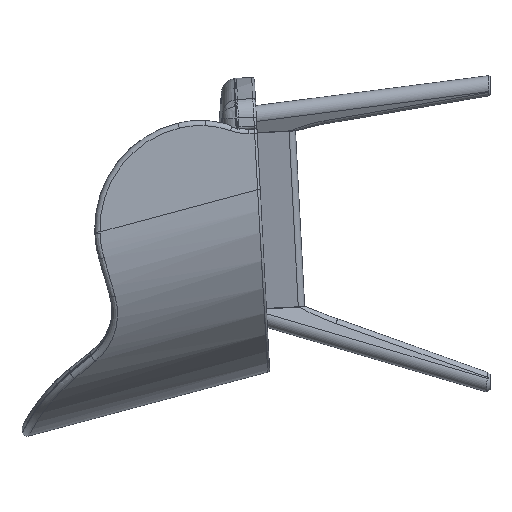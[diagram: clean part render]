
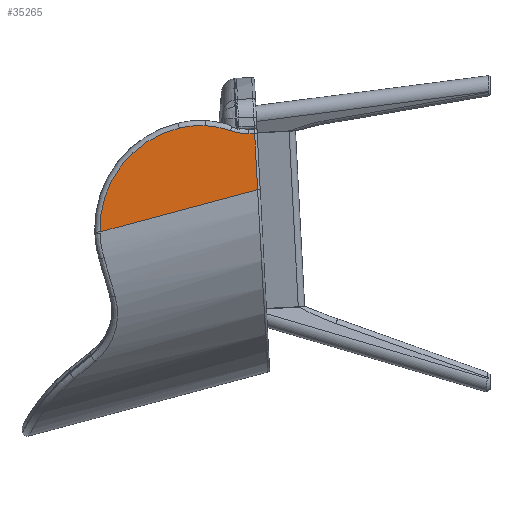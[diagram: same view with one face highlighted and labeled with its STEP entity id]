
A CAD part, left-side view. The second image highlights one B-rep face of the part: STEP entity #35265.
In plain terms, the highlighted planar face has unit normal (-1, 0, 0).
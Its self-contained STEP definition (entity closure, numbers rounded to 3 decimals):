
#447 = CARTESIAN_POINT ( 'NONE',  ( -280., 383.855, 66.681 ) ) ;
#1936 = LINE ( 'NONE', #22665, #27418 ) ;
#2046 = EDGE_CURVE ( 'NONE', #2876, #10575, #11007, .T. ) ;
#2876 = VERTEX_POINT ( 'NONE', #18075 ) ;
#4004 = VECTOR ( 'NONE', #32299, 1000. ) ;
#4334 = ORIENTED_EDGE ( 'NONE', *, *, #2046, .T. ) ;
#4385 = DIRECTION ( 'NONE',  ( 0., 0.966, -0.259 ) ) ;
#4421 = DIRECTION ( 'NONE',  ( -1., 0., 0. ) ) ;
#5559 = CARTESIAN_POINT ( 'NONE',  ( -280., 468.738, 5.61 ) ) ;
#5767 = DIRECTION ( 'NONE',  ( -1., 0., 0. ) ) ;
#6125 = EDGE_CURVE ( 'NONE', #35269, #18450, #21948, .T. ) ;
#7814 = ORIENTED_EDGE ( 'NONE', *, *, #6125, .F. ) ;
#8215 = VERTEX_POINT ( 'NONE', #36327 ) ;
#8229 = CARTESIAN_POINT ( 'NONE',  ( -280., 311.524, 154.145 ) ) ;
#8264 = EDGE_CURVE ( 'NONE', #29548, #2876, #13573, .T. ) ;
#8459 = DIRECTION ( 'NONE',  ( 0., -0.052, 0.999 ) ) ;
#9056 = AXIS2_PLACEMENT_3D ( 'NONE', #15248, #11902, #30626 ) ;
#9679 = CARTESIAN_POINT ( 'NONE',  ( -280., 397.43, 242.145 ) ) ;
#9700 = FACE_OUTER_BOUND ( 'NONE', #23218, .T. ) ;
#9754 = EDGE_CURVE ( 'NONE', #10575, #13452, #18257, .T. ) ;
#10575 = VERTEX_POINT ( 'NONE', #27025 ) ;
#11007 = CIRCLE ( 'NONE', #19201, 142. ) ;
#11265 = ORIENTED_EDGE ( 'NONE', *, *, #15922, .T. ) ;
#11418 = CARTESIAN_POINT ( 'NONE',  ( -280., 473.409, 25.057 ) ) ;
#11902 = DIRECTION ( 'NONE',  ( -1., 0., 0. ) ) ;
#13292 = DIRECTION ( 'NONE',  ( 0., -0.052, 0.999 ) ) ;
#13452 = VERTEX_POINT ( 'NONE', #26097 ) ;
#13573 = CIRCLE ( 'NONE', #18018, 88. ) ;
#15188 = CARTESIAN_POINT ( 'NONE',  ( -280., 397.43, 154.145 ) ) ;
#15195 = ORIENTED_EDGE ( 'NONE', *, *, #8264, .T. ) ;
#15248 = CARTESIAN_POINT ( 'NONE',  ( -280., 311.524, 86.063 ) ) ;
#15474 = CIRCLE ( 'NONE', #16117, 162. ) ;
#15803 = DIRECTION ( 'NONE',  ( 1., 0., 0. ) ) ;
#15922 = EDGE_CURVE ( 'NONE', #13452, #18450, #15474, .T. ) ;
#16117 = AXIS2_PLACEMENT_3D ( 'NONE', #5559, #4421, #13292 ) ;
#16221 = CARTESIAN_POINT ( 'NONE',  ( -280., 311.524, 86.063 ) ) ;
#18018 = AXIS2_PLACEMENT_3D ( 'NONE', #9679, #15803, #29014 ) ;
#18075 = CARTESIAN_POINT ( 'NONE',  ( -280., 426.5, 159.085 ) ) ;
#18257 = CIRCLE ( 'NONE', #21407, 142. ) ;
#18450 = VERTEX_POINT ( 'NONE', #26194 ) ;
#19201 = AXIS2_PLACEMENT_3D ( 'NONE', #11418, #35479, #8459 ) ;
#21407 = AXIS2_PLACEMENT_3D ( 'NONE', #26475, #5767, #23913 ) ;
#21948 = LINE ( 'NONE', #16221, #26917 ) ;
#22454 = ORIENTED_EDGE ( 'NONE', *, *, #27031, .T. ) ;
#22665 = CARTESIAN_POINT ( 'NONE',  ( -280., 388.428, 153.935 ) ) ;
#23218 = EDGE_LOOP ( 'NONE', ( #7814, #22454, #38199, #15195, #4334, #28499, #11265 ) ) ;
#23913 = DIRECTION ( 'NONE',  ( 0., -0.052, 0.999 ) ) ;
#26097 = CARTESIAN_POINT ( 'NONE',  ( -280., 506.57, 163.13 ) ) ;
#26194 = CARTESIAN_POINT ( 'NONE',  ( -280., 630.659, 0.55 ) ) ;
#26475 = CARTESIAN_POINT ( 'NONE',  ( -280., 473.409, 25.057 ) ) ;
#26917 = VECTOR ( 'NONE', #4385, 1000. ) ;
#27025 = CARTESIAN_POINT ( 'NONE',  ( -280., 465.977, 166.862 ) ) ;
#27031 = EDGE_CURVE ( 'NONE', #35269, #8215, #1936, .T. ) ;
#27418 = VECTOR ( 'NONE', #32122, 1000. ) ;
#28499 = ORIENTED_EDGE ( 'NONE', *, *, #9754, .T. ) ;
#29014 = DIRECTION ( 'NONE',  ( 0., -0.052, 0.999 ) ) ;
#29352 = LINE ( 'NONE', #8229, #4004 ) ;
#29548 = VERTEX_POINT ( 'NONE', #15188 ) ;
#29857 = PLANE ( 'NONE',  #9056 ) ;
#30626 = DIRECTION ( 'NONE',  ( 0., -0.052, 0.999 ) ) ;
#32122 = DIRECTION ( 'NONE',  ( 0., 0.052, 0.999 ) ) ;
#32299 = DIRECTION ( 'NONE',  ( 0., 1., 0. ) ) ;
#35196 = EDGE_CURVE ( 'NONE', #8215, #29548, #29352, .T. ) ;
#35265 = ADVANCED_FACE ( 'NONE', ( #9700 ), #29857, .T. ) ;
#35269 = VERTEX_POINT ( 'NONE', #447 ) ;
#35479 = DIRECTION ( 'NONE',  ( -1., 0., 0. ) ) ;
#36327 = CARTESIAN_POINT ( 'NONE',  ( -280., 388.439, 154.145 ) ) ;
#38199 = ORIENTED_EDGE ( 'NONE', *, *, #35196, .T. ) ;
